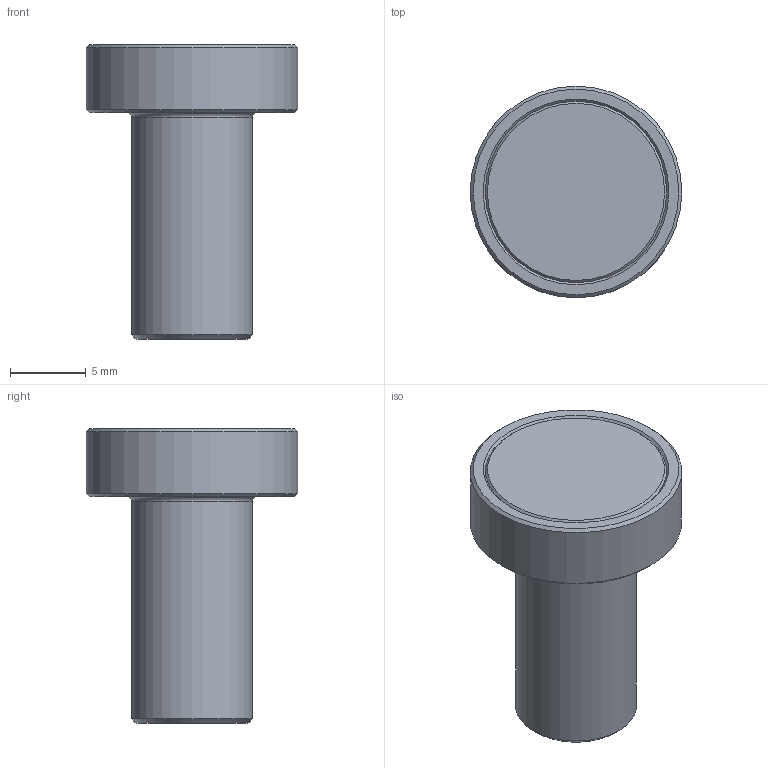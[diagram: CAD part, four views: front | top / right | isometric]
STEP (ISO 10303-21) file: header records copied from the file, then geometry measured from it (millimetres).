
FILE_DESCRIPTION(('Open CASCADE Model'),'2;1');
FILE_NAME('FL-DOT-knob-14','2026-10-19T21:24:16',('Author'),( 'Open CASCADE'),'Open CASCADE STEP processor 8.0','build123d', 'Unknown');
FILE_SCHEMA(('AUTOMOTIVE_DESIGN { 1 0 10303 214 1 1 1 1 }'));
Length unit declared in the file: millimetre
Products named in the file (2): FL-DOT-knob-14; brass_FL-DOT14__k
Assembly tree (1 placements, depth 2):
  FL-DOT-knob-14
    brass_FL-DOT14__k
Bounding box: 14 x 14 x 19.5 mm (x, y, z)
Volume: 1333.6 mm3; surface area: 992.4 mm2
Topology: 1 solids, 1 shells, 16 faces, 25 edges, 15 vertices
Faces by surface type: plane 6, cone 5, cylinder 4, torus 1
Full cylindrical faces by diameter (mm): 3.3 x1, 5.1 x1, 8 x1, 14 x1
Entity records: 713 total; most frequent: CARTESIAN_POINT 122, DIRECTION 118, ORIENTED_EDGE 50, PCURVE 50, DEFINITIONAL_REPRESENTATION 50, LINE 41, VECTOR 41, AXIS2_PLACEMENT_3D 34
